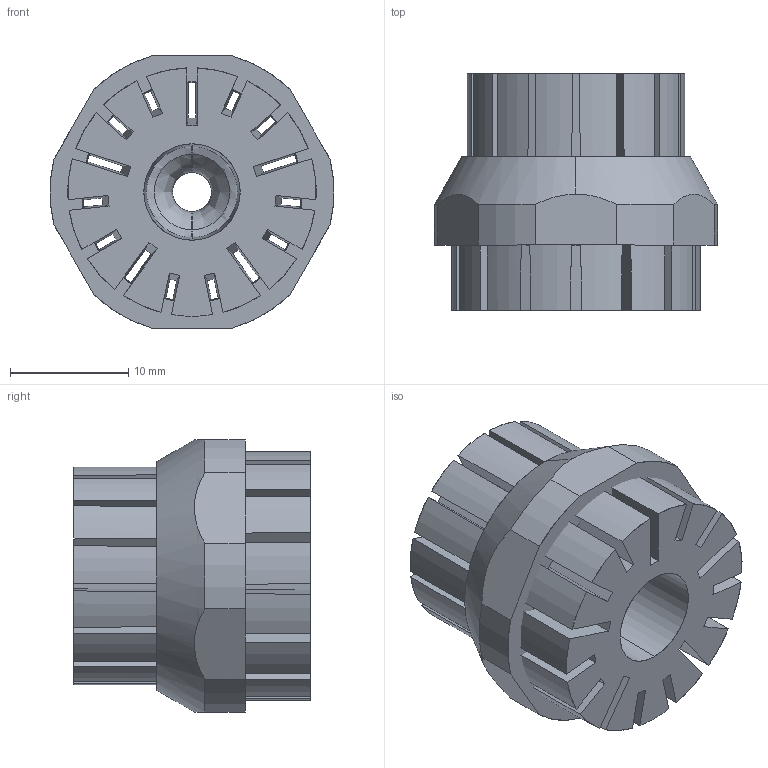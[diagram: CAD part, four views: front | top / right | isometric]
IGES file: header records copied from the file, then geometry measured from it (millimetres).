
Start section: SolidWorks IGES file using analytic representation for surfaces
Global section: file name: G:\Silvent\Ritningar\Övrigt\IGES\Silvent 707 L LP.IGS; native system: SolidWorks 2011; preprocessor: SolidWorks 2011; author: silvpesv; date: 110705.122735; units: millimetre
Bounding box: 24 x 20 x 23 mm (x, y, z)
Surface area: 5176.9 mm2 (no closed solid volume)
Topology: 0 solids, 0 shells, 133 faces, 1108 edges, 1108 vertices
Faces by surface type: bspline 81, revolution 52
